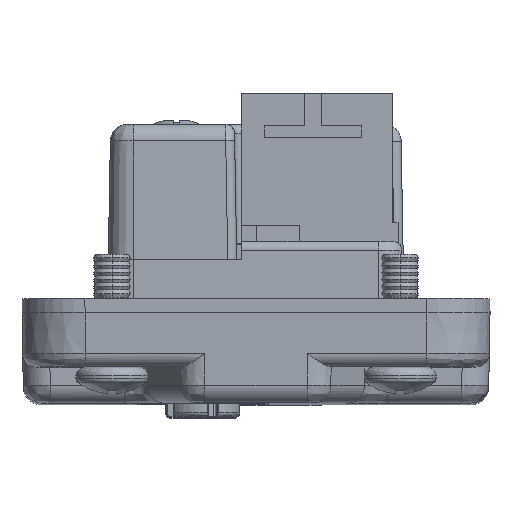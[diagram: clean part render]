
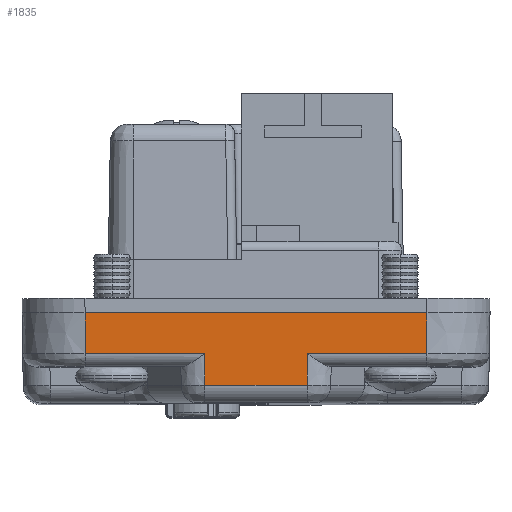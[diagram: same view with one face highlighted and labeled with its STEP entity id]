
A CAD part, top view. The second image highlights one B-rep face of the part: STEP entity #1835.
In plain terms, the highlighted planar face has unit normal (0, -0.018, 1).
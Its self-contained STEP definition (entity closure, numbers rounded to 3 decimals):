
#693 = CARTESIAN_POINT ( 'NONE',  ( 171.507, 119.105, 183.264 ) ) ;
#1835 = ADVANCED_FACE ( 'NONE', ( #143617 ), #91697, .T. ) ;
#2911 = ORIENTED_EDGE ( 'NONE', *, *, #61128, .T. ) ;
#4121 = DIRECTION ( 'NONE',  ( 0., 1., 0.017 ) ) ;
#6895 = DIRECTION ( 'NONE',  ( 0., 1., 0.017 ) ) ;
#8254 = ORIENTED_EDGE ( 'NONE', *, *, #33811, .T. ) ;
#8773 = CARTESIAN_POINT ( 'NONE',  ( 158.195, 127.139, 183.404 ) ) ;
#8980 = ORIENTED_EDGE ( 'NONE', *, *, #30652, .T. ) ;
#10114 = ORIENTED_EDGE ( 'NONE', *, *, #23253, .T. ) ;
#11000 = LINE ( 'NONE', #55310, #98945 ) ;
#11677 = ORIENTED_EDGE ( 'NONE', *, *, #98323, .F. ) ;
#13776 = VERTEX_POINT ( 'NONE', #80908 ) ;
#18472 = CARTESIAN_POINT ( 'NONE',  ( 196.195, 127.139, 183.404 ) ) ;
#19072 = CARTESIAN_POINT ( 'NONE',  ( 171.507, 122.613, 183.325 ) ) ;
#20244 = VECTOR ( 'NONE', #122064, 1000. ) ;
#22871 = ORIENTED_EDGE ( 'NONE', *, *, #94587, .T. ) ;
#23043 = DIRECTION ( 'NONE',  ( 0., -0.017, 1. ) ) ;
#23253 = EDGE_CURVE ( 'NONE', #83470, #48285, #23984, .T. ) ;
#23984 = LINE ( 'NONE', #8773, #131617 ) ;
#24554 = EDGE_LOOP ( 'NONE', ( #11677, #8254, #34473, #8980, #97118, #10114, #22871, #2911 ) ) ;
#30652 = EDGE_CURVE ( 'NONE', #60888, #13776, #53449, .T. ) ;
#33811 = EDGE_CURVE ( 'NONE', #47601, #93519, #36604, .T. ) ;
#34100 = CARTESIAN_POINT ( 'NONE',  ( 158.195, 127.139, 183.404 ) ) ;
#34473 = ORIENTED_EDGE ( 'NONE', *, *, #111858, .T. ) ;
#35197 = CARTESIAN_POINT ( 'NONE',  ( 158.195, 127.139, 183.404 ) ) ;
#36604 = LINE ( 'NONE', #141579, #97526 ) ;
#37960 = CARTESIAN_POINT ( 'NONE',  ( 158.195, 122.613, 183.325 ) ) ;
#46636 = VECTOR ( 'NONE', #148732, 1000. ) ;
#46693 = VERTEX_POINT ( 'NONE', #693 ) ;
#47601 = VERTEX_POINT ( 'NONE', #120622 ) ;
#48285 = VERTEX_POINT ( 'NONE', #57806 ) ;
#51249 = AXIS2_PLACEMENT_3D ( 'NONE', #34100, #23043, #103237 ) ;
#53449 = LINE ( 'NONE', #18472, #80289 ) ;
#55310 = CARTESIAN_POINT ( 'NONE',  ( 158.195, 122.613, 183.325 ) ) ;
#57804 = LINE ( 'NONE', #37960, #88177 ) ;
#57806 = CARTESIAN_POINT ( 'NONE',  ( 158.195, 122.613, 183.325 ) ) ;
#60888 = VERTEX_POINT ( 'NONE', #70475 ) ;
#61128 = EDGE_CURVE ( 'NONE', #84504, #46693, #65230, .T. ) ;
#64944 = CARTESIAN_POINT ( 'NONE',  ( 171.507, 127.139, 183.404 ) ) ;
#65230 = LINE ( 'NONE', #64944, #20244 ) ;
#70475 = CARTESIAN_POINT ( 'NONE',  ( 196.195, 122.613, 183.325 ) ) ;
#77022 = LINE ( 'NONE', #136776, #46636 ) ;
#80289 = VECTOR ( 'NONE', #6895, 1000. ) ;
#80290 = EDGE_CURVE ( 'NONE', #13776, #83470, #135146, .T. ) ;
#80908 = CARTESIAN_POINT ( 'NONE',  ( 196.195, 127.139, 183.404 ) ) ;
#83470 = VERTEX_POINT ( 'NONE', #121834 ) ;
#84358 = CARTESIAN_POINT ( 'NONE',  ( 182.882, 122.613, 183.325 ) ) ;
#84504 = VERTEX_POINT ( 'NONE', #19072 ) ;
#88177 = VECTOR ( 'NONE', #117640, 1000. ) ;
#91697 = PLANE ( 'NONE',  #51249 ) ;
#93519 = VERTEX_POINT ( 'NONE', #84358 ) ;
#94587 = EDGE_CURVE ( 'NONE', #48285, #84504, #57804, .T. ) ;
#97118 = ORIENTED_EDGE ( 'NONE', *, *, #80290, .T. ) ;
#97526 = VECTOR ( 'NONE', #4121, 1000. ) ;
#98323 = EDGE_CURVE ( 'NONE', #47601, #46693, #77022, .T. ) ;
#98945 = VECTOR ( 'NONE', #112861, 1000. ) ;
#103237 = DIRECTION ( 'NONE',  ( 0., -1., -0.017 ) ) ;
#103839 = DIRECTION ( 'NONE',  ( -1., 0., 0. ) ) ;
#104586 = VECTOR ( 'NONE', #103839, 1000. ) ;
#111858 = EDGE_CURVE ( 'NONE', #93519, #60888, #11000, .T. ) ;
#112861 = DIRECTION ( 'NONE',  ( 1., 0., 0. ) ) ;
#117640 = DIRECTION ( 'NONE',  ( 1., 0., 0. ) ) ;
#120622 = CARTESIAN_POINT ( 'NONE',  ( 182.882, 119.105, 183.264 ) ) ;
#121834 = CARTESIAN_POINT ( 'NONE',  ( 158.195, 127.139, 183.404 ) ) ;
#122064 = DIRECTION ( 'NONE',  ( 0., -1., -0.017 ) ) ;
#131617 = VECTOR ( 'NONE', #146222, 1000. ) ;
#135146 = LINE ( 'NONE', #35197, #104586 ) ;
#136776 = CARTESIAN_POINT ( 'NONE',  ( 171.695, 119.105, 183.264 ) ) ;
#141579 = CARTESIAN_POINT ( 'NONE',  ( 182.882, 127.139, 183.404 ) ) ;
#143617 = FACE_OUTER_BOUND ( 'NONE', #24554, .T. ) ;
#146222 = DIRECTION ( 'NONE',  ( 0., -1., -0.017 ) ) ;
#148732 = DIRECTION ( 'NONE',  ( -1., 0., 0. ) ) ;
